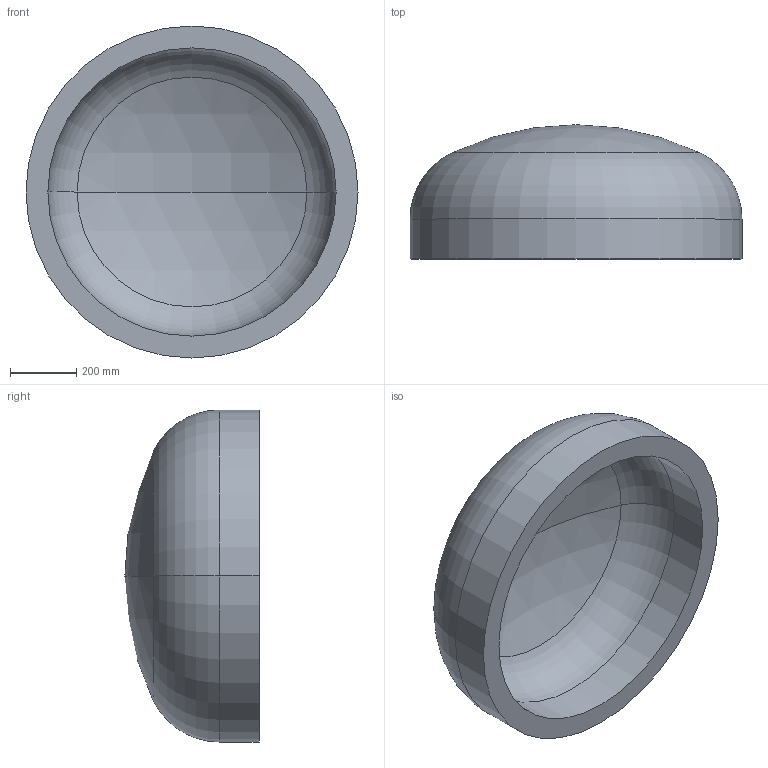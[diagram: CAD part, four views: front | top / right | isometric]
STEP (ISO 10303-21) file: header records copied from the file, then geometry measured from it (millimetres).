
FILE_DESCRIPTION (( 'STEP AP203' ), '1' );
FILE_NAME ('DIN 28013 Korbbogenform_-_Boden DIN 28013 - 1000 x 120 - I - s=66.step', '2016-07-01T08:52:40', ( '' ), ( '' ), 'SwSTEP 2.0', 'SolidWorks 2013', '' );
FILE_SCHEMA (( 'CONFIG_CONTROL_DESIGN' ));
Length unit declared in the file: millimetre
Products named in the file (1): DIN 28013 Korbbogenform_-_Boden DIN 28013 - 1000 x 120 - I - s=66
Bounding box: 1000 x 404.46 x 1000 mm (x, y, z)
Volume: 89354112.9 mm3; surface area: 2910483.4 mm2
Topology: 1 solids, 1 shells, 13 faces, 24 edges, 14 vertices
Faces by surface type: torus 4, cylinder 4, sphere 4, plane 1
Entity records: 407 total; most frequent: DIRECTION 72, CARTESIAN_POINT 52, ORIENTED_EDGE 48, AXIS2_PLACEMENT_3D 34, EDGE_CURVE 24, CIRCLE 20, VERTEX_POINT 14, EDGE_LOOP 14
